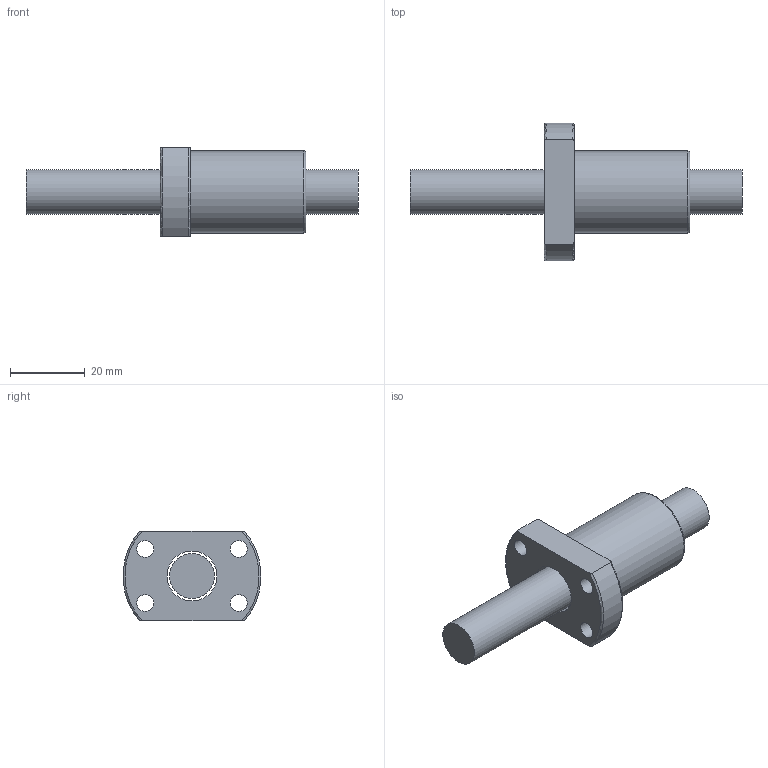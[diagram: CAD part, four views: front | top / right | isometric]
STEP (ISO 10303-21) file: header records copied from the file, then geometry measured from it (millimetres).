
FILE_DESCRIPTION (( 'STEP AP203' ), '1' );
FILE_NAME ('XSUR01205T3D-00.STEP', '2023-07-31T00:16:33', ( '' ), ( '' ), 'SwSTEP 2.0', 'SolidWorks 2022', '' );
FILE_SCHEMA (( 'CONFIG_CONTROL_DESIGN' ));
Length unit declared in the file: millimetre
Products named in the file (1): XSUR01205T3D-00
Bounding box: 89 x 36.89 x 24 mm (x, y, z)
Volume: 22400.2 mm3; surface area: 9881.5 mm2
Topology: 2 solids, 2 shells, 21 faces, 51 edges, 35 vertices
Faces by surface type: cylinder 9, plane 7, torus 5
Full cylindrical faces by diameter (mm): 4.5 x4, 12 x1, 13.4 x1, 22 x1
Entity records: 839 total; most frequent: CARTESIAN_POINT 296, DIRECTION 98, ORIENTED_EDGE 78, AXIS2_PLACEMENT_3D 45, EDGE_LOOP 40, EDGE_CURVE 39, VERTEX_POINT 31, FACE_OUTER_BOUND 29
